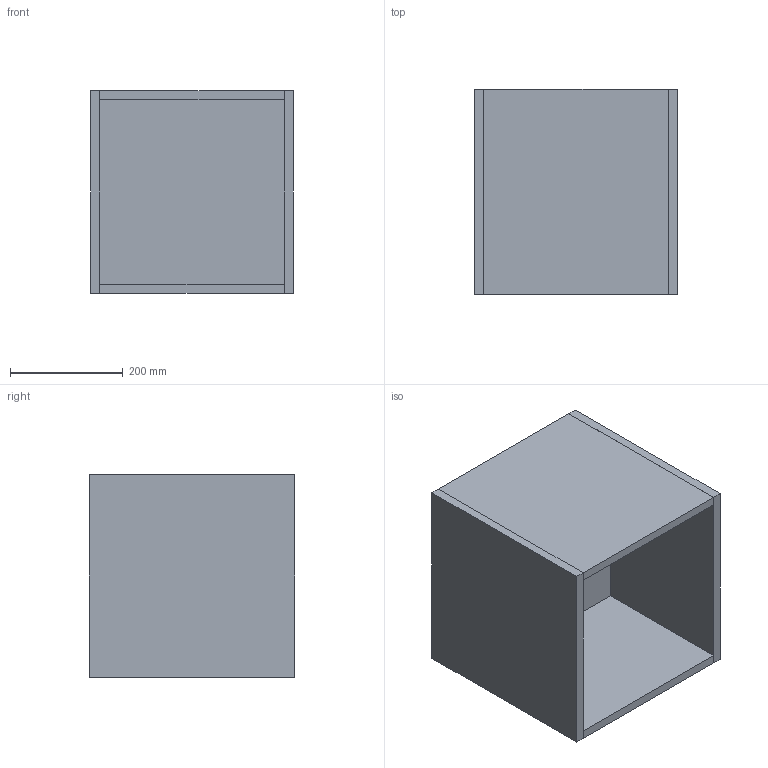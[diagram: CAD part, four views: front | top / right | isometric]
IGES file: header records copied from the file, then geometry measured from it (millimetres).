
Start section: Data from Parasolid IGES Translator 19.0.9, Copyright(c) 2006 Siemens PL M Software. All Rights Reserved.
Global section: file name: noorth-SI-H 36 D 38,8 W 36_8341.igs; native system: By Siemens PLM Incorporated; preprocessor: XPlus GENERIC/IGES 19.0.9; author: Noname; organization: Noname; date: 20200601.091859; units: metre
Bounding box: 360.01 x 364.06 x 360 mm (x, y, z)
Volume: 8322213.4 mm3; surface area: 1311357.7 mm2
Topology: 5 solids, 5 shells, 30 faces, 60 edges, 40 vertices
Faces by surface type: plane 30
